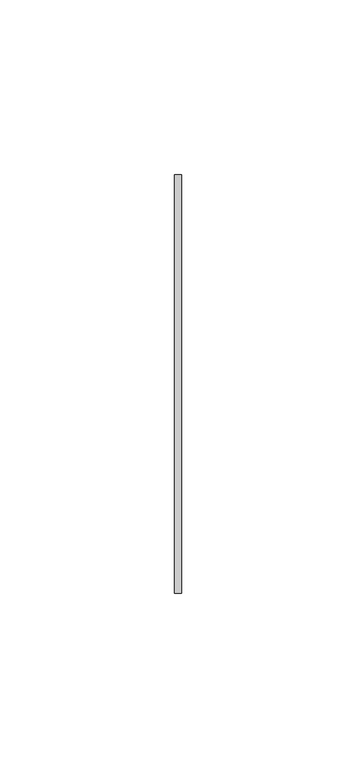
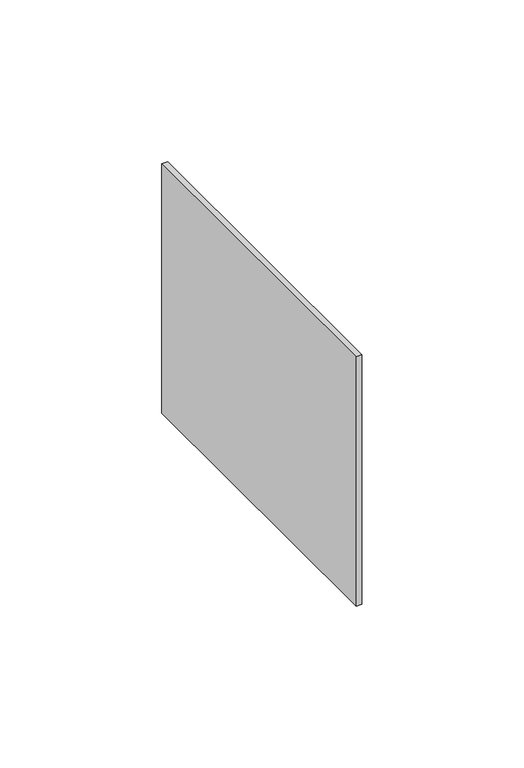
"""IFC4 building model written with IfcOpenShell, lengths in millimetres: proxy geometry, JUWT H100_Juction-Basorcanal : Basorcanal JUWT 100."""

from ifc_helpers import new_model, si_unit, origin, origin_with_axes, place, context, project, spatial, polyline, outline, extrude, source, transform, mapped, element, save


def generic_models_f9c9fb11(model_context):
    return source(origin(), model_context, "Body", "SweptSolid", [
        extrude(outline(polyline([(2.0, -60.0), (0.0, -60.0), (0.0, 60.0), (2.0, 60.0), (2.0, -60.0)])), origin_with_axes(), (0.0, 0.0, 1.0), 94.0),
    ])


if __name__ == "__main__":
    model = new_model("IFC4")
    model_context = context("Model", 3, world=origin())
    ifc_project = project(units=[si_unit("LENGTHUNIT", "METRE", prefix="MILLI")], contexts=[model_context])
    site = spatial("IfcSite", under=ifc_project)
    building = spatial("IfcBuilding", under=site)
    placement = place(None, origin())
    generic_models_shape = generic_models_f9c9fb11(model_context)
    element("IfcBuildingElementProxy", 1, Name="JUWT H100_Juction-Basorcanal : Basorcanal JUWT 100", ObjectType="JUWT H100_Juction-Basorcanal : Basorcanal JUWT 100", at=placement, inside=building, context=model_context, shape_type="MappedRepresentation", body=[
        mapped(generic_models_shape, transform((0.0, 0.0, 0.0), x_axis=(1.0, 0.0, 0.0), y_axis=(0.0, 1.0, 0.0), z_axis=(0.0, 0.0, 1.0))),
    ])
    save(model, "model.ifc")
